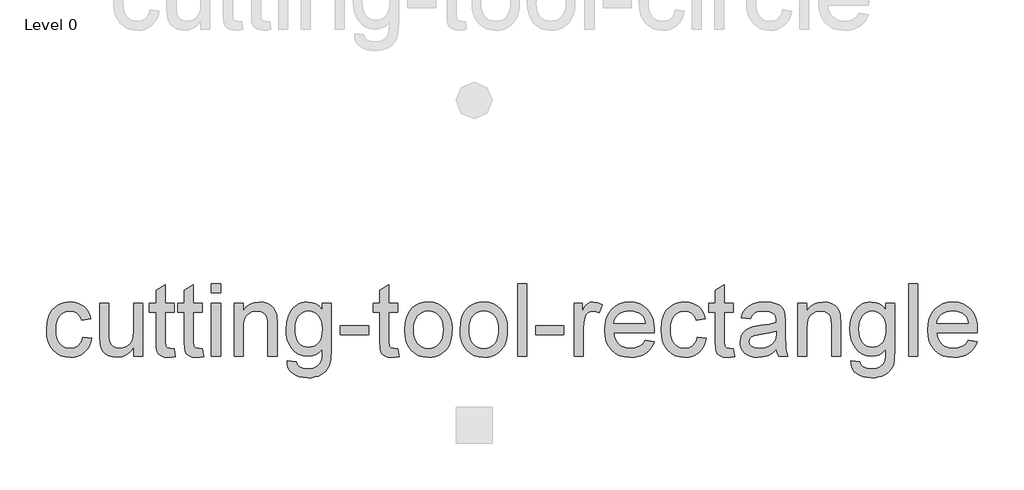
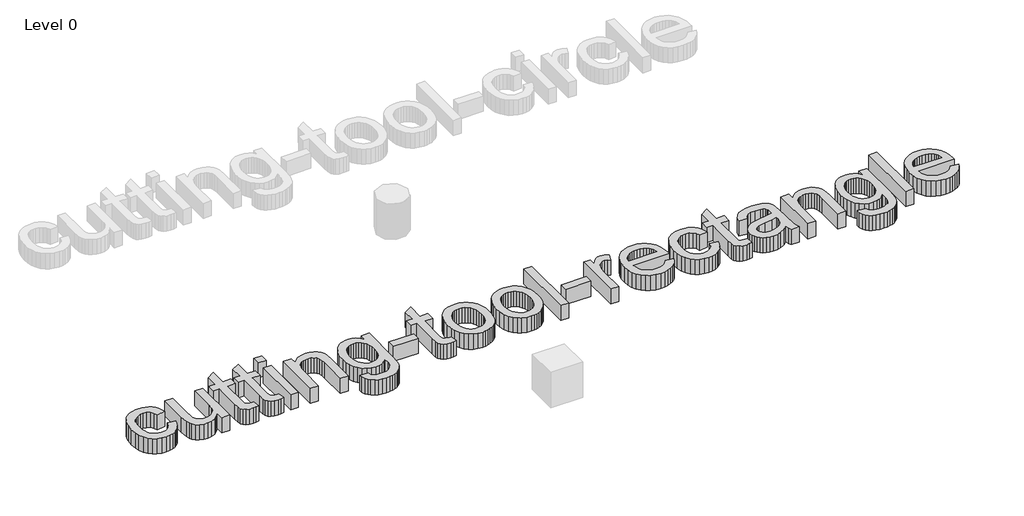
# One storey, part 2 of 3: 1 proxy.
"""IFC4 building model written with IfcOpenShell, lengths in millimetres."""

from ifc_helpers import new_model, si_unit, origin, origin_with_axes, place, context, project, spatial, polyline, outline, extrude, element, save

model = new_model("IFC4")

# Units and contexts
model_context = context("Model", 3, world=origin())
ifc_project = project(units=[si_unit("LENGTHUNIT", "METRE", prefix="MILLI")], contexts=[model_context])

# Site, building, storey
site = spatial("IfcSite", under=ifc_project)
building = spatial("IfcBuilding", under=site)
storey = spatial("IfcBuildingStorey", under=building, Name="Level 0", Elevation=0.0)

# Proxy
placement = place(None, origin())
element("IfcBuildingElementProxy", 1, Name="24\" Arial", ObjectType="24\" Arial", at=placement, inside=storey, context=model_context, shape_type="SweptSolid", body=[
    extrude(outline(polyline([(-985.7627846, 10231.8989417), (-909.6210111, 10222.38122), (-917.9025444, 10186.4527501), (-930.8499919, 10154.6603994), (-948.4633538, 10127.0041681), (-970.7426301, 10103.484056), (-996.7490611, 10084.7135102), (-1025.543887, 10071.3059774), (-1057.127108, 10063.2614578), (-1091.498724, 10060.5799512), (-1134.2029939, 10064.3210479), (-1172.4923049, 10075.5443379), (-1206.3666571, 10094.2498212), (-1235.8260506, 10120.4374978), (-1259.6714754, 10153.6147513), (-1276.7039217, 10193.2889652), (-1286.9233895, 10239.4601395), (-1290.3298787, 10292.1282742), (-1284.5114278, 10359.8862734), (-1277.2383641, 10390.377373), (-1267.0560749, 10418.6098726), (-1253.8948504, 10444.0167986), (-1237.6849806, 10466.0311774), (-1218.4264656, 10484.6530088), (-1196.1193054, 10499.882293), (-1171.7719695, 10511.7236772), (-1146.3929275, 10520.1818088), (-1119.9821792, 10525.2566877), (-1092.5397249, 10526.948314), (-1058.7583191, 10524.6246515), (-1028.2021569, 10517.6536639), (-1000.8712384, 10506.0353513), (-976.7655634, 10489.7697137), (-956.2940965, 10469.228537), (-939.8658025, 10444.7836073), (-927.4806813, 10416.4349245), (-919.1387328, 10384.1824887), (-995.2805063, 10374.664767), (-1009.0923564, 10407.8838464), (-1030.6001767, 10431.6967399), (-1058.614252, 10446.0290904), (-1091.9448672, 10450.8065405), (-1117.8165258, 10448.454994), (-1141.1507448, 10441.4003546), (-1161.9475244, 10429.6426223), (-1180.2068645, 10413.181797), (-1195.0736573, 10391.6367981), (-1205.692795, 10364.6265449), (-1212.0642777, 10332.1510375), (-1214.1881052, 10294.2102758), (-1212.1107509, 10255.6978932), (-1205.878688, 10222.8459525), (-1195.4919165, 10195.6544536), (-1180.9504365, 10174.1233967), (-1163.0535877, 10157.7601652), (-1142.6007102, 10146.0721427), (-1119.5918039, 10139.0593293), (-1094.0268689, 10136.7217248), (-1054.5989632, 10142.558765), (-1037.5479276, 10149.8550653), (-1022.2721702, 10160.0698858), (-1009.1992448, 10173.3147622), (-998.7567055, 10189.7012303), (-990.9445521, 10209.2292901), (-985.7627846, 10231.8989417)])), origin_with_axes(), (0.0, 0.0, 1.0), 152.4),
    extrude(outline(polyline([(-557.4653086, 10070.0976729), (-557.4653086, 10146.9830185), (-585.0146515, 10109.1816766), (-617.0997836, 10082.180718), (-653.7207049, 10065.9801429), (-694.8774155, 10060.5799512), (-731.9630694, 10064.3721685), (-766.4833998, 10075.7488202), (-795.4455295, 10092.8509763), (-815.856581, 10113.8197069), (-829.5940739, 10139.2870482), (-838.5355273, 10169.8850363), (-842.9969593, 10240.6730913), (-842.9969593, 10517.4305923), (-766.8551858, 10517.4305923), (-766.8551858, 10276.5132621), (-765.7026492, 10228.329796), (-762.2450393, 10198.8843445), (-751.1472271, 10172.9894494), (-732.1303731, 10153.3033805), (-706.4585495, 10140.8671387), (-675.3958289, 10136.7217248), (-642.5485355, 10140.9600852), (-611.8204223, 10153.6751665), (-586.4832062, 10173.6958428), (-569.8086039, 10199.8509882), (-560.5511324, 10235.6725696), (-557.4653086, 10284.6925542), (-557.4653086, 10517.4305923), (-481.3235351, 10517.4305923), (-481.3235351, 10070.0976729), (-557.4653086, 10070.0976729)])), origin_with_axes(), (0.0, 0.0, 1.0), 152.4),
    extrude(outline(polyline([(-214.8273278, 10133.5987223), (-205.3096061, 10067.8669569), (-235.461451, 10062.4017027), (-262.2672218, 10060.5799512), (-298.813786, 10063.7401323), (-326.0657, 10073.2206754), (-345.324215, 10087.8318653), (-357.8905819, 10106.3839869), (-364.8058016, 10138.2460474), (-367.1108748, 10192.7870541), (-367.1108748, 10441.2888188), (-424.217205, 10441.2888188), (-424.217205, 10517.4305923), (-367.1108748, 10517.4305923), (-367.1108748, 10626.1408198), (-290.9691013, 10670.9038546), (-290.9691013, 10517.4305923), (-214.8273278, 10517.4305923), (-214.8273278, 10441.2888188), (-290.9691013, 10441.2888188), (-290.9691013, 10195.0177701), (-286.9538125, 10155.7571681), (-273.9413023, 10141.8523716), (-262.9550259, 10138.0043865), (-247.9906393, 10136.7217248), (-214.8273278, 10133.5987223)])), origin_with_axes(), (0.0, 0.0, 1.0), 152.4),
    extrude(outline(polyline([(23.1157145, 10133.5987223), (32.6334361, 10067.8669569), (2.4815913, 10062.4017027), (-24.3241796, 10060.5799512), (-60.8707437, 10063.7401323), (-88.1226578, 10073.2206754), (-107.3811728, 10087.8318653), (-119.9475397, 10106.3839869), (-126.8627594, 10138.2460474), (-129.1678326, 10192.7870541), (-129.1678326, 10441.2888188), (-186.2741627, 10441.2888188), (-186.2741627, 10517.4305923), (-129.1678326, 10517.4305923), (-129.1678326, 10626.1408198), (-53.0260591, 10670.9038546), (-53.0260591, 10517.4305923), (23.1157145, 10517.4305923), (23.1157145, 10441.2888188), (-53.0260591, 10441.2888188), (-53.0260591, 10195.0177701), (-49.0107702, 10155.7571681), (-35.9982601, 10141.8523716), (-25.0119837, 10138.0043865), (-10.0475971, 10136.7217248), (23.1157145, 10133.5987223)])), origin_with_axes(), (0.0, 0.0, 1.0), 152.4),
    extrude(outline(polyline([(99.257488, 10603.0900876), (99.257488, 10679.2318611), (175.3992615, 10679.2318611), (175.3992615, 10603.0900876), (99.257488, 10603.0900876)])), origin_with_axes(), (0.0, 0.0, 1.0), 152.4),
    extrude(outline(polyline([(99.257488, 10070.0976729), (99.257488, 10517.4305923), (175.3992615, 10517.4305923), (175.3992615, 10070.0976729), (99.257488, 10070.0976729)])), origin_with_axes(), (0.0, 0.0, 1.0), 152.4),
    extrude(outline(polyline([(289.6119218, 10070.0976729), (289.6119218, 10517.4305923), (365.7536953, 10517.4305923), (365.7536953, 10454.9705438), (392.2062694, 10486.4608183), (423.9753834, 10508.9538715), (461.0610373, 10522.4497034), (503.463231, 10526.948314), (540.995028, 10523.3234005), (575.3666441, 10512.4486599), (604.0313449, 10495.6811111), (624.4423965, 10474.3777731), (638.2914251, 10448.5944138), (647.2700571, 10418.386801), (651.285346, 10344.7731723), (651.285346, 10070.0976729), (575.1435725, 10070.0976729), (575.1435725, 10334.5118786), (572.950035, 10373.8840164), (566.3694228, 10401.8795025), (554.2306098, 10421.9373573), (535.3624701, 10437.4966016), (511.1777906, 10447.4790558), (483.089358, 10450.8065405), (459.9689159, 10448.9383159), (438.4936269, 10443.3336418), (418.6634909, 10433.9925185), (400.478508, 10420.9149458), (385.2864024, 10402.6137798), (374.4348985, 10377.6018764), (367.9239961, 10345.8792357), (365.7536953, 10307.4458576), (365.7536953, 10070.0976729), (289.6119218, 10070.0976729)])), origin_with_axes(), (0.0, 0.0, 1.0), 152.4),
    extrude(outline(polyline([(736.9448412, 10032.0267862), (813.0866147, 10022.5090645), (821.4889784, 9998.7147603), (837.7732053, 9982.3561761), (869.7839802, 9969.6410948), (911.6842628, 9965.4027343), (956.3729404, 9970.1987738), (974.4231509, 9976.1938231), (989.6106092, 9984.5868921), (1012.6613414, 10007.6376243), (1026.7892095, 10038.4215054), (1030.9160341, 10071.1758523), (1031.9942136, 10127.2040031), (1006.6569974, 10102.2199836), (978.3826719, 10084.3742555), (947.1712369, 10073.6668186), (913.0226924, 10070.0976729), (871.2757716, 10074.2523815), (834.5200778, 10086.7165073), (802.7556111, 10107.4900502), (775.9823715, 10136.5730104), (754.7394488, 10171.4651268), (739.5659325, 10209.6661386), (730.4618227, 10251.1760459), (727.4271195, 10295.9948487), (732.8737844, 10357.4696643), (749.2137793, 10413.9997262), (761.3247084, 10439.490304), (775.8708357, 10461.9043527), (792.8521615, 10481.2418722), (812.2686855, 10497.5028626), (833.8090371, 10510.3852476), (857.1618454, 10519.5869512), (882.3271105, 10525.1079733), (909.3048324, 10526.948314), (944.9126369, 10522.7843108), (977.2301352, 10510.2923011), (1006.2573275, 10489.4722849), (1031.9942136, 10460.3242622), (1031.9942136, 10517.4305923), (1108.1359871, 10517.4305923), (1108.1359871, 10131.2192919), (1102.930983, 10042.046419), (1096.424728, 10008.8784601), (1087.3159709, 9983.3228197), (1075.3862875, 9962.7119331), (1060.4172535, 9944.3782358), (1042.408869, 9928.3217278), (1021.3611339, 9914.5424091), (997.4878251, 9903.4817755), (971.0027197, 9895.5813229), (941.9058176, 9890.8410513), (910.1971188, 9889.2609608), (872.8930407, 9891.4870295), (839.3532958, 9898.1652356), (809.5778843, 9909.2955791), (783.566806, 9924.87806), (762.5562495, 9944.9312675), (747.7824032, 9969.4737911), (739.2452671, 9998.5056306), (736.9448412, 10032.0267862)]), holes=[polyline([(803.568893, 10301.1998527), (805.599774, 10263.5518725), (811.6924172, 10231.359852), (821.8468224, 10204.623791), (836.0629897, 10183.3436896), (853.3463915, 10167.1105832), (872.7025004, 10155.5155072), (894.1313161, 10148.5584616), (917.6328389, 10146.2394464), (940.9019954, 10148.5445197), (962.22857, 10155.4597393), (981.6125628, 10166.9851054), (999.0539736, 10183.120618), (1013.4653286, 10204.1915897), (1023.7591536, 10230.5233334), (1029.9354486, 10262.1158491), (1031.9942136, 10298.9691367), (1029.8750333, 10334.2841597), (1023.5174927, 10364.9797416), (1012.9215916, 10391.0558824), (998.08733, 10412.5125822), (980.2694858, 10429.2661889), (960.7228367, 10441.2330509), (939.4473826, 10448.4131681), (916.4431237, 10450.8065405), (893.8245927, 10448.4503467), (872.9627506, 10441.3817653), (853.8575973, 10429.6007963), (836.5091329, 10413.1074398), (822.097778, 10391.9760528), (811.803953, 10366.2809926), (805.627658, 10336.0222593), (803.568893, 10301.1998527)])]), origin_with_axes(), (0.0, 0.0, 1.0), 152.4),
    extrude(outline(polyline([(1184.2777606, 10250.934385), (1184.2777606, 10327.0761586), (1422.2208028, 10327.0761586), (1422.2208028, 10250.934385), (1184.2777606, 10250.934385)])), origin_with_axes(), (0.0, 0.0, 1.0), 152.4),
    extrude(outline(polyline([(1669.6815668, 10133.5987223), (1679.1992885, 10067.8669569), (1649.0474436, 10062.4017027), (1622.2416727, 10060.5799512), (1585.6951086, 10063.7401323), (1558.4431945, 10073.2206754), (1539.1846795, 10087.8318653), (1526.6183126, 10106.3839869), (1519.7030929, 10138.2460474), (1517.3980197, 10192.7870541), (1517.3980197, 10441.2888188), (1460.2916896, 10441.2888188), (1460.2916896, 10517.4305923), (1517.3980197, 10517.4305923), (1517.3980197, 10626.1408198), (1593.5397932, 10670.9038546), (1593.5397932, 10517.4305923), (1669.6815668, 10517.4305923), (1669.6815668, 10441.2888188), (1593.5397932, 10441.2888188), (1593.5397932, 10195.0177701), (1597.5550821, 10155.7571681), (1610.5675922, 10141.8523716), (1621.5538686, 10138.0043865), (1636.5182552, 10136.7217248), (1669.6815668, 10133.5987223)])), origin_with_axes(), (0.0, 0.0, 1.0), 152.4),
    extrude(outline(polyline([(1726.7878969, 10293.7641326), (1730.9054269, 10351.6976866), (1743.2580169, 10401.6192523), (1763.8456668, 10443.5288295), (1792.6683767, 10477.4264184), (1821.6862743, 10499.0922477), (1853.7156385, 10514.5678401), (1888.7564693, 10523.8531956), (1926.8087668, 10526.948314), (1968.8159379, 10523.1793334), (2006.7985254, 10511.8723916), (2040.7565295, 10493.0274885), (2070.6899501, 10466.6446243), (2095.1209379, 10433.6160852), (2112.5716434, 10394.8341577), (2123.0420668, 10350.2988418), (2126.5322079, 10300.0101375), (2124.9892959, 10259.2530969), (2120.3605602, 10223.0876134), (2112.6460006, 10191.513687), (2101.8456172, 10164.5313178), (2088.0941824, 10141.2249827), (2071.5264686, 10120.6791587), (2052.1424759, 10102.8938458), (2029.9422042, 10087.8690439), (2005.7900559, 10075.9300659), (1980.5504336, 10067.4022244), (1954.2233372, 10062.2855195), (1926.8087668, 10060.5799512), (1884.1881488, 10064.3349899), (1845.8523645, 10075.6001058), (1811.8014139, 10094.375299), (1782.035297, 10120.6605694), (1757.8645595, 10154.0097739), (1740.5997469, 10193.9767693), (1730.2408594, 10240.5615555), (1726.7878969, 10293.7641326)]), holes=[polyline([(1802.9296704, 10293.912847), (1805.1325025, 10256.9805549), (1811.7409987, 10225.0023113), (1822.7551591, 10197.9781162), (1838.1749835, 10175.9079695), (1856.9315874, 10158.7639874), (1877.9560859, 10146.518286), (1901.248479, 10139.1708651), (1926.8087668, 10136.7217248), (1952.2389294, 10139.184807), (1975.438376, 10146.5740539), (1996.4071066, 10158.8894652), (2015.1451212, 10176.1310411), (2030.5649457, 10198.419612), (2041.5791061, 10225.8760084), (2048.1876023, 10258.5002302), (2050.3904343, 10296.2922775), (2048.1736603, 10332.0534437), (2041.5233382, 10363.1951688), (2030.4394679, 10389.7174528), (2014.9220496, 10411.6202957), (1996.1143252, 10428.7642778), (1975.1595365, 10441.0099793), (1952.0576837, 10448.3574002), (1926.8087668, 10450.8065405), (1901.248479, 10448.3666949), (1877.9560859, 10441.0471579), (1856.9315874, 10428.8479297), (1838.1749835, 10411.7690102), (1822.7551591, 10389.7639261), (1811.7409987, 10362.7862042), (1805.1325025, 10330.8358445), (1802.9296704, 10293.912847)])]), origin_with_axes(), (0.0, 0.0, 1.0), 152.4),
    extrude(outline(polyline([(2193.1562597, 10293.7641326), (2197.2737897, 10351.6976866), (2209.6263796, 10401.6192523), (2230.2140296, 10443.5288295), (2259.0367395, 10477.4264184), (2288.0546371, 10499.0922477), (2320.0840013, 10514.5678401), (2355.1248321, 10523.8531956), (2393.1771296, 10526.948314), (2435.1843006, 10523.1793334), (2473.1668882, 10511.8723916), (2507.1248923, 10493.0274885), (2537.0583129, 10466.6446243), (2561.4893007, 10433.6160852), (2578.9400062, 10394.8341577), (2589.4104295, 10350.2988418), (2592.9005707, 10300.0101375), (2591.3576587, 10259.2530969), (2586.728923, 10223.0876134), (2579.0143634, 10191.513687), (2568.21398, 10164.5313178), (2554.4625452, 10141.2249827), (2537.8948314, 10120.6791587), (2518.5108387, 10102.8938458), (2496.3105669, 10087.8690439), (2472.1584187, 10075.9300659), (2446.9187964, 10067.4022244), (2420.5917, 10062.2855195), (2393.1771296, 10060.5799512), (2350.5565116, 10064.3349899), (2312.2207273, 10075.6001058), (2278.1697767, 10094.375299), (2248.4036598, 10120.6605694), (2224.2329223, 10154.0097739), (2206.9681097, 10193.9767693), (2196.6092222, 10240.5615555), (2193.1562597, 10293.7641326)]), holes=[polyline([(2269.2980332, 10293.912847), (2271.5008653, 10256.9805549), (2278.1093615, 10225.0023113), (2289.1235218, 10197.9781162), (2304.5433463, 10175.9079695), (2323.2999502, 10158.7639874), (2344.3244487, 10146.518286), (2367.6168418, 10139.1708651), (2393.1771296, 10136.7217248), (2418.6072922, 10139.184807), (2441.8067388, 10146.5740539), (2462.7754694, 10158.8894652), (2481.513484, 10176.1310411), (2496.9333085, 10198.419612), (2507.9474689, 10225.8760084), (2514.5559651, 10258.5002302), (2516.7587971, 10296.2922775), (2514.5420231, 10332.0534437), (2507.891701, 10363.1951688), (2496.8078307, 10389.7174528), (2481.2904124, 10411.6202957), (2462.482688, 10428.7642778), (2441.5278993, 10441.0099793), (2418.4260465, 10448.3574002), (2393.1771296, 10450.8065405), (2367.6168418, 10448.3666949), (2344.3244487, 10441.0471579), (2323.2999502, 10428.8479297), (2304.5433463, 10411.7690102), (2289.1235218, 10389.7639261), (2278.1093615, 10362.7862042), (2271.5008653, 10330.8358445), (2269.2980332, 10293.912847)])]), origin_with_axes(), (0.0, 0.0, 1.0), 152.4),
    extrude(outline(polyline([(2678.5600659, 10070.0976729), (2678.5600659, 10679.2318611), (2754.7018394, 10679.2318611), (2754.7018394, 10070.0976729), (2678.5600659, 10070.0976729)])), origin_with_axes(), (0.0, 0.0, 1.0), 152.4),
    extrude(outline(polyline([(2830.8436129, 10250.934385), (2830.8436129, 10327.0761586), (3068.7866551, 10327.0761586), (3068.7866551, 10250.934385), (2830.8436129, 10250.934385)])), origin_with_axes(), (0.0, 0.0, 1.0), 152.4),
    extrude(outline(polyline([(3154.4461503, 10070.0976729), (3154.4461503, 10517.4305923), (3221.0702022, 10517.4305923), (3221.0702022, 10451.2526837), (3245.6824356, 10489.6209993), (3268.3613818, 10512.2255883), (3291.1146852, 10523.2676326), (3315.9499903, 10526.948314), (3353.8721626, 10521.0740952), (3392.3891926, 10503.4514386), (3366.9590299, 10435.1915284), (3340.1904377, 10446.9027875), (3313.4218454, 10450.8065405), (3290.6871313, 10447.0515019), (3270.3690262, 10435.786386), (3253.9546742, 10417.8663006), (3242.9312192, 10394.1463536), (3233.6737477, 10351.6140348), (3230.5879239, 10305.2151415), (3230.5879239, 10070.0976729), (3154.4461503, 10070.0976729)])), origin_with_axes(), (0.0, 0.0, 1.0), 152.4),
    extrude(outline(polyline([(3753.1703304, 10203.3457766), (3827.8249599, 10193.8280549), (3816.3785983, 10163.9271656), (3800.9262425, 10137.5768326), (3781.4678926, 10114.7770559), (3758.0035484, 10095.5278356), (3730.774871, 10080.2381362), (3700.0235212, 10069.3169223), (3665.749499, 10062.764194), (3627.9528044, 10060.5799512), (3580.708098, 10064.3489319), (3538.6126278, 10075.6558737), (3501.6663937, 10094.5007767), (3469.8693957, 10120.883641), (3444.2998133, 10154.0701891), (3426.0358259, 10193.3261438), (3415.0774334, 10238.6515049), (3411.424636, 10290.0462726), (3415.114612, 10343.1837872), (3426.1845403, 10390.0195289), (3444.6344207, 10430.553498), (3470.4642533, 10464.7856942), (3502.1775994, 10491.9818404), (3538.2780204, 10511.4076591), (3578.7655161, 10523.0631503), (3623.6400868, 10526.948314), (3667.0693393, 10523.0724449), (3706.3438832, 10511.4448377), (3741.4637186, 10492.0654923), (3772.4288454, 10464.9344087), (3797.7056463, 10430.7765696), (3815.7605041, 10390.3169577), (3826.5934187, 10343.5555732), (3830.2043903, 10290.4924158), (3829.7582471, 10269.9698284), (3487.5664095, 10269.9698284), (3491.9767209, 10239.5856173), (3500.7462233, 10212.9750341), (3513.8749166, 10190.1380788), (3531.3628007, 10171.0747515), (3552.2432321, 10156.0453023), (3575.5495672, 10145.3099814), (3601.281806, 10138.8687889), (3629.4399484, 10136.7217248), (3669.9646228, 10140.699835), (3704.0945779, 10152.6341657), (3731.8298138, 10173.2682889), (3753.1703304, 10203.3457766)]), holes=[polyline([(3487.5664095, 10346.1116019), (3754.0626168, 10346.1116019), (3743.7641445, 10386.3388475), (3734.906343, 10402.158342), (3723.5761645, 10415.1150842), (3702.8119162, 10430.7300963), (3679.1849157, 10441.8836764), (3652.6951629, 10448.5758245), (3623.342658, 10450.8065405), (3596.5694184, 10449.026615), (3572.0176002, 10443.6868386), (3549.6872033, 10434.7872111), (3529.5782279, 10422.3277326), (3512.7037906, 10406.8846715), (3500.0770085, 10389.034296), (3491.6978814, 10368.7766062), (3487.5664095, 10346.1116019)])]), origin_with_axes(), (0.0, 0.0, 1.0), 152.4),
    extrude(outline(polyline([(4191.8778145, 10231.8989417), (4268.019588, 10222.38122), (4259.7380548, 10186.4527501), (4246.7906072, 10154.6603994), (4229.1772453, 10127.0041681), (4206.8979691, 10103.484056), (4180.8915381, 10084.7135102), (4152.0967121, 10071.3059774), (4120.5134911, 10063.2614578), (4086.1418751, 10060.5799512), (4043.4376053, 10064.3210479), (4005.1482943, 10075.5443379), (3971.273942, 10094.2498212), (3941.8145486, 10120.4374978), (3917.9691238, 10153.6147513), (3900.9366775, 10193.2889652), (3890.7172097, 10239.4601395), (3887.3107204, 10292.1282742), (3893.1291714, 10359.8862734), (3900.4022351, 10390.377373), (3910.5845243, 10418.6098726), (3923.7457488, 10444.0167986), (3939.9556185, 10466.0311774), (3959.2141335, 10484.6530088), (3981.5212937, 10499.882293), (4005.8686296, 10511.7236772), (4031.2476717, 10520.1818088), (4057.6584199, 10525.2566877), (4085.1008743, 10526.948314), (4118.8822801, 10524.6246515), (4149.4384422, 10517.6536639), (4176.7693608, 10506.0353513), (4200.8750358, 10489.7697137), (4221.3465026, 10469.228537), (4237.7747966, 10444.7836073), (4250.1599179, 10416.4349245), (4258.5018663, 10384.1824887), (4182.3600928, 10374.664767), (4168.5482428, 10407.8838464), (4147.0404225, 10431.6967399), (4119.0263471, 10446.0290904), (4085.6957319, 10450.8065405), (4059.8240734, 10448.454994), (4036.4898544, 10441.4003546), (4015.6930748, 10429.6426223), (3997.4337347, 10413.181797), (3982.5669419, 10391.6367981), (3971.9478041, 10364.6265449), (3965.5763215, 10332.1510375), (3963.452494, 10294.2102758), (3965.5298483, 10255.6978932), (3971.7619111, 10222.8459525), (3982.1486826, 10195.6544536), (3996.6901627, 10174.1233967), (4014.5870114, 10157.7601652), (4035.0398889, 10146.0721427), (4058.0487952, 10139.0593293), (4083.6137303, 10136.7217248), (4123.041636, 10142.558765), (4140.0926716, 10149.8550653), (4155.368429, 10160.0698858), (4168.4413543, 10173.3147622), (4178.8838937, 10189.7012303), (4186.6960471, 10209.2292901), (4191.8778145, 10231.8989417)])), origin_with_axes(), (0.0, 0.0, 1.0), 152.4),
    extrude(outline(polyline([(4496.4449086, 10133.5987223), (4505.9626303, 10067.8669569), (4475.8107854, 10062.4017027), (4449.0050145, 10060.5799512), (4412.4584504, 10063.7401323), (4385.2065363, 10073.2206754), (4365.9480214, 10087.8318653), (4353.3816544, 10106.3839869), (4346.4664348, 10138.2460474), (4344.1613615, 10192.7870541), (4344.1613615, 10441.2888188), (4287.0550314, 10441.2888188), (4287.0550314, 10517.4305923), (4344.1613615, 10517.4305923), (4344.1613615, 10626.1408198), (4420.3031351, 10670.9038546), (4420.3031351, 10517.4305923), (4496.4449086, 10517.4305923), (4496.4449086, 10441.2888188), (4420.3031351, 10441.2888188), (4420.3031351, 10195.0177701), (4424.3184239, 10155.7571681), (4437.330934, 10141.8523716), (4448.3172104, 10138.0043865), (4463.2815971, 10136.7217248), (4496.4449086, 10133.5987223)])), origin_with_axes(), (0.0, 0.0, 1.0), 152.4),
    extrude(outline(polyline([(4858.1183328, 10127.2040031), (4821.7390723, 10096.0111574), (4784.2816325, 10075.6001058), (4744.8909054, 10064.3349899), (4702.7117833, 10060.5799512), (4668.8095471, 10062.8385512), (4639.0806088, 10069.6143511), (4613.5249684, 10080.907351), (4592.1426259, 10096.7175508), (4575.258894, 10116.0411283), (4563.1990855, 10137.8742614), (4555.9632004, 10162.21695), (4553.5512387, 10189.0691941), (4557.1947416, 10220.6338258), (4568.1252501, 10249.2985266), (4584.9857453, 10273.8364029), (4606.4192084, 10293.0205606), (4631.6077102, 10307.5202148), (4659.7333213, 10318.0045801), (4725.6138011, 10329.455589), (4803.4657903, 10341.5014555), (4857.6721896, 10355.6293236), (4858.1183328, 10372.5827654), (4852.8761501, 10406.5640061), (4846.3234218, 10419.1489623), (4837.1496022, 10428.7968091), (4821.2929291, 10438.4260666), (4801.9786463, 10445.3041077), (4752.977251, 10450.8065405), (4707.6193586, 10447.1444484), (4675.9431911, 10436.158172), (4654.3424243, 10415.8400669), (4639.2107339, 10384.1824887), (4563.0689604, 10393.7002104), (4576.2859528, 10435.3402428), (4596.0092003, 10468.0574111), (4624.0790436, 10493.0786091), (4662.3358233, 10511.6307307), (4709.1250919, 10523.1189182), (4762.7924015, 10526.948314), (4814.2661737, 10523.5650614), (4855.0696876, 10513.4153035), (4885.8349793, 10498.1534881), (4907.1940853, 10479.4340628), (4921.359132, 10456.2903841), (4930.5422463, 10427.7558083), (4934.2601063, 10361.1317565), (4934.2601063, 10266.4006828), (4938.1266807, 10134.1192227), (4943.8521852, 10101.4206437), (4953.2955497, 10070.0976729), (4877.1537762, 10070.0976729), (4864.9591953, 10096.5688364), (4858.1183328, 10127.2040031)]), holes=[polyline([(4858.1183328, 10279.4875501), (4806.9605787, 10266.8096474), (4735.2802372, 10256.1393891), (4669.7715434, 10243.7960938), (4652.7251552, 10235.3565515), (4640.1030203, 10223.7196496), (4632.2955143, 10209.7776744), (4629.6930122, 10194.4229125), (4635.3627488, 10171.7811449), (4652.3719585, 10153.2290233), (4680.3488552, 10140.8485494), (4718.9216531, 10136.7217248), (4759.8181135, 10141.2761033), (4795.955713, 10154.9392389), (4825.2524501, 10175.071451), (4845.6263231, 10199.0330589), (4854.660723, 10223.7196496), (4857.6721896, 10257.9239619), (4858.1183328, 10279.4875501)])]), origin_with_axes(), (0.0, 0.0, 1.0), 152.4),
    extrude(outline(polyline([(5038.9550449, 10070.0976729), (5038.9550449, 10517.4305923), (5115.0968184, 10517.4305923), (5115.0968184, 10454.9705438), (5141.5493926, 10486.4608183), (5173.3185066, 10508.9538715), (5210.4041604, 10522.4497034), (5252.8063541, 10526.948314), (5290.3381512, 10523.3234005), (5324.7097672, 10512.4486599), (5353.3744681, 10495.6811111), (5373.7855196, 10474.3777731), (5387.6345483, 10448.5944138), (5396.6131803, 10418.386801), (5400.6284691, 10344.7731723), (5400.6284691, 10070.0976729), (5324.4866956, 10070.0976729), (5324.4866956, 10334.5118786), (5322.2931582, 10373.8840164), (5315.7125459, 10401.8795025), (5303.5737329, 10421.9373573), (5284.7055932, 10437.4966016), (5260.5209137, 10447.4790558), (5232.4324811, 10450.8065405), (5209.312039, 10448.9383159), (5187.83675, 10443.3336418), (5168.006614, 10433.9925185), (5149.8216311, 10420.9149458), (5134.6295256, 10402.6137798), (5123.7780216, 10377.6018764), (5117.2671192, 10345.8792357), (5115.0968184, 10307.4458576), (5115.0968184, 10070.0976729), (5038.9550449, 10070.0976729)])), origin_with_axes(), (0.0, 0.0, 1.0), 152.4),
    extrude(outline(polyline([(5486.2879643, 10032.0267862), (5562.4297378, 10022.5090645), (5570.8321015, 9998.7147603), (5587.1163285, 9982.3561761), (5619.1271034, 9969.6410948), (5661.027386, 9965.4027343), (5705.7160636, 9970.1987738), (5723.766274, 9976.1938231), (5738.9537323, 9984.5868921), (5762.0044645, 10007.6376243), (5776.1323326, 10038.4215054), (5780.2591573, 10071.1758523), (5781.3373367, 10127.2040031), (5756.0001205, 10102.2199836), (5727.725795, 10084.3742555), (5696.51436, 10073.6668186), (5662.3658156, 10070.0976729), (5620.6188947, 10074.2523815), (5583.8632009, 10086.7165073), (5552.0987342, 10107.4900502), (5525.3254947, 10136.5730104), (5504.0825719, 10171.4651268), (5488.9090556, 10209.6661386), (5479.8049459, 10251.1760459), (5476.7702426, 10295.9948487), (5482.2169076, 10357.4696643), (5498.5569024, 10413.9997262), (5510.6678315, 10439.490304), (5525.2139589, 10461.9043527), (5542.1952846, 10481.2418722), (5561.6118086, 10497.5028626), (5583.1521602, 10510.3852476), (5606.5049685, 10519.5869512), (5631.6702336, 10525.1079733), (5658.6479555, 10526.948314), (5694.25576, 10522.7843108), (5726.5732584, 10510.2923011), (5755.6004506, 10489.4722849), (5781.3373367, 10460.3242622), (5781.3373367, 10517.4305923), (5857.4791102, 10517.4305923), (5857.4791102, 10131.2192919), (5852.2741062, 10042.046419), (5845.7678511, 10008.8784601), (5836.659094, 9983.3228197), (5824.7294106, 9962.7119331), (5809.7603767, 9944.3782358), (5791.7519921, 9928.3217278), (5770.704257, 9914.5424091), (5746.8309482, 9903.4817755), (5720.3458428, 9895.5813229), (5691.2489407, 9890.8410513), (5659.5402419, 9889.2609608), (5622.2361638, 9891.4870295), (5588.696419, 9898.1652356), (5558.9210074, 9909.2955791), (5532.9099291, 9924.87806), (5511.8993726, 9944.9312675), (5497.1255263, 9969.4737911), (5488.5883902, 9998.5056306), (5486.2879643, 10032.0267862)]), holes=[polyline([(5552.9120161, 10301.1998527), (5554.9428972, 10263.5518725), (5561.0355403, 10231.359852), (5571.1899455, 10204.623791), (5585.4061128, 10183.3436896), (5602.6895147, 10167.1105832), (5622.0456235, 10155.5155072), (5643.4744393, 10148.5584616), (5666.975962, 10146.2394464), (5690.2451185, 10148.5445197), (5711.5716931, 10155.4597393), (5730.9556859, 10166.9851054), (5748.3970968, 10183.120618), (5762.8084517, 10204.1915897), (5773.1022767, 10230.5233334), (5779.2785717, 10262.1158491), (5781.3373367, 10298.9691367), (5779.2181565, 10334.2841597), (5772.8606158, 10364.9797416), (5762.2647147, 10391.0558824), (5747.4304532, 10412.5125822), (5729.6126089, 10429.2661889), (5710.0659598, 10441.2330509), (5688.7905058, 10448.4131681), (5665.7862468, 10450.8065405), (5643.1677158, 10448.4503467), (5622.3058737, 10441.3817653), (5603.2007204, 10429.6007963), (5585.852256, 10413.1074398), (5571.4409011, 10391.9760528), (5561.1470761, 10366.2809926), (5554.9707811, 10336.0222593), (5552.9120161, 10301.1998527)])]), origin_with_axes(), (0.0, 0.0, 1.0), 152.4),
    extrude(outline(polyline([(5971.6917705, 10070.0976729), (5971.6917705, 10679.2318611), (6047.833544, 10679.2318611), (6047.833544, 10070.0976729), (5971.6917705, 10070.0976729)])), origin_with_axes(), (0.0, 0.0, 1.0), 152.4),
    extrude(outline(polyline([(6475.2387336, 10203.3457766), (6549.8933631, 10193.8280549), (6538.4470015, 10163.9271656), (6522.9946458, 10137.5768326), (6503.5362958, 10114.7770559), (6480.0719517, 10095.5278356), (6452.8432742, 10080.2381362), (6422.0919244, 10069.3169223), (6387.8179022, 10062.764194), (6350.0212076, 10060.5799512), (6302.7765012, 10064.3489319), (6260.681031, 10075.6558737), (6223.7347969, 10094.5007767), (6191.937799, 10120.883641), (6166.3682166, 10154.0701891), (6148.1042291, 10193.3261438), (6137.1458367, 10238.6515049), (6133.4930392, 10290.0462726), (6137.1830153, 10343.1837872), (6148.2529435, 10390.0195289), (6166.702824, 10430.553498), (6192.5326566, 10464.7856942), (6224.2460027, 10491.9818404), (6260.3464236, 10511.4076591), (6300.8339194, 10523.0631503), (6345.70849, 10526.948314), (6389.1377425, 10523.0724449), (6428.4122865, 10511.4448377), (6463.5321218, 10492.0654923), (6494.4972486, 10464.9344087), (6519.7740495, 10430.7765696), (6537.8289073, 10390.3169577), (6548.661822, 10343.5555732), (6552.2727935, 10290.4924158), (6551.8266503, 10269.9698284), (6209.6348127, 10269.9698284), (6214.0451242, 10239.5856173), (6222.8146265, 10212.9750341), (6235.9433198, 10190.1380788), (6253.4312039, 10171.0747515), (6274.3116354, 10156.0453023), (6297.6179704, 10145.3099814), (6323.3502092, 10138.8687889), (6351.5083517, 10136.7217248), (6392.033026, 10140.699835), (6426.1629812, 10152.6341657), (6453.898217, 10173.2682889), (6475.2387336, 10203.3457766)]), holes=[polyline([(6209.6348127, 10346.1116019), (6476.13102, 10346.1116019), (6465.8325477, 10386.3388475), (6456.9747462, 10402.158342), (6445.6445677, 10415.1150842), (6424.8803194, 10430.7300963), (6401.2533189, 10441.8836764), (6374.7635662, 10448.5758245), (6345.4110612, 10450.8065405), (6318.6378216, 10449.026615), (6294.0860034, 10443.6868386), (6271.7556066, 10434.7872111), (6251.6466311, 10422.3277326), (6234.7721939, 10406.8846715), (6222.1454117, 10389.034296), (6213.7662847, 10368.7766062), (6209.6348127, 10346.1116019)])]), origin_with_axes(), (0.0, 0.0, 1.0), 152.4),
])

save(model, "model.ifc")
